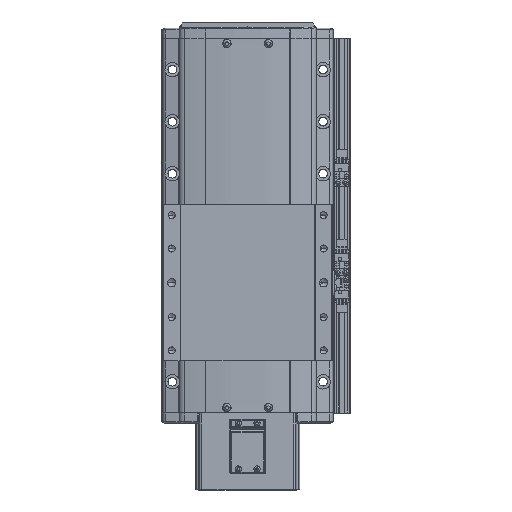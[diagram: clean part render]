
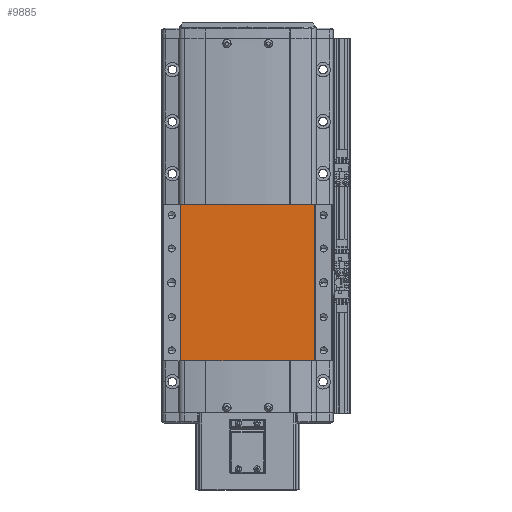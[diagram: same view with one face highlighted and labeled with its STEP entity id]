
A CAD part, top view. The second image highlights one B-rep face of the part: STEP entity #9885.
In plain terms, the highlighted planar face has unit normal (0, 0, 1).
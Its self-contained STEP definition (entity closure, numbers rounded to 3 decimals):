
#9885=ADVANCED_FACE('',(#20204),#20205,.F.);
#20204=FACE_OUTER_BOUND('',#33745,.T.);
#20205=PLANE('',#33746);
#33745=EDGE_LOOP('',(#62333,#62334,#62335,#62336));
#33746=AXIS2_PLACEMENT_3D('',#62337,#62338,#62339);
#62333=ORIENTED_EDGE('',*,*,#76276,.F.);
#62334=ORIENTED_EDGE('',*,*,#74342,.F.);
#62335=ORIENTED_EDGE('',*,*,#71821,.F.);
#62336=ORIENTED_EDGE('',*,*,#68908,.T.);
#62337=CARTESIAN_POINT('',(-600.,322.222,51.5));
#62338=DIRECTION('',(0.,0.,-1.0));
#62339=DIRECTION('',(-1.0,0.,0.));
#68908=EDGE_CURVE('',#82792,#82789,#82793,.T.);
#71821=EDGE_CURVE('',#82792,#87564,#87565,.T.);
#74342=EDGE_CURVE('',#87564,#91309,#91311,.T.);
#76276=EDGE_CURVE('',#91309,#82789,#93913,.T.);
#82789=VERTEX_POINT('',#102359);
#82792=VERTEX_POINT('',#102362);
#82793=LINE('',#102363,#102364);
#87564=VERTEX_POINT('',#108881);
#87565=LINE('',#108882,#108883);
#91309=VERTEX_POINT('',#114217);
#91311=LINE('',#114219,#114220);
#93913=LINE('',#118110,#118111);
#102359=CARTESIAN_POINT('',(-535.624,472.222,51.5));
#102362=CARTESIAN_POINT('',(-535.624,322.222,51.5));
#102363=CARTESIAN_POINT('',(-535.624,322.222,51.5));
#102364=VECTOR('',#125355,10.0);
#108881=CARTESIAN_POINT('',(-664.376,322.222,51.5));
#108882=CARTESIAN_POINT('',(-535.624,322.222,51.5));
#108883=VECTOR('',#129489,10.0);
#114217=CARTESIAN_POINT('',(-664.376,472.222,51.5));
#114219=CARTESIAN_POINT('',(-664.376,322.222,51.5));
#114220=VECTOR('',#132838,10.0);
#118110=CARTESIAN_POINT('',(-535.624,472.222,51.5));
#118111=VECTOR('',#135330,10.0);
#125355=DIRECTION('',(0.,1.0,0.));
#129489=DIRECTION('',(-1.0,0.,0.));
#132838=DIRECTION('',(0.,1.0,0.));
#135330=DIRECTION('',(1.0,0.,0.));
